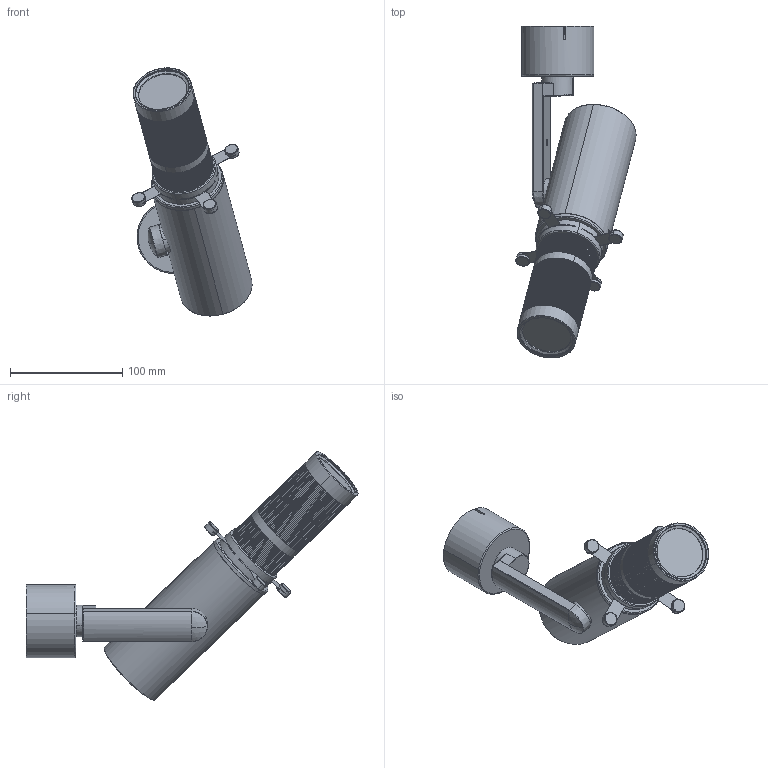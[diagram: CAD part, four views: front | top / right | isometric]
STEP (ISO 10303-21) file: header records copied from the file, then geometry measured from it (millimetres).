
FILE_DESCRIPTION (( 'STEP AP203' ), '1' );
FILE_NAME ('MODI-FP-3SPM.S.XX.STEP', '2025-05-07T07:01:01', ( '' ), ( '' ), 'SwSTEP 2.0', 'SolidWorks 2024', '' );
FILE_SCHEMA (( 'CONFIG_CONTROL_DESIGN' ));
Length unit declared in the file: millimetre
Products named in the file (4): MODI-FP-3SPM.S.XX; MODI-3-Framing_projector_lens.step; MODI-3-Single_point_base_surface.step; MODI-3-Luminaire_body.step
Assembly tree (3 placements, depth 2):
  MODI-FP-3SPM.S.XX
    MODI-3-Luminaire_body.step
    MODI-3-Single_point_base_surface.step
    MODI-3-Framing_projector_lens.step
Bounding box: 107.1 x 295.6 x 220.94 mm (x, y, z)
Volume: 563366.8 mm3; surface area: 214271 mm2
Topology: 7 solids, 33 shells, 2632 faces, 7441 edges, 4891 vertices
Faces by surface type: plane 1191, cylinder 1101, bspline 227, cone 63, torus 40, sphere 10
Entity records: 119871 total; most frequent: CARTESIAN_POINT 52525, ORIENTED_EDGE 14882, DIRECTION 13150, EDGE_CURVE 7441, VERTEX_POINT 4891, AXIS2_PLACEMENT_3D 4471, LINE 4208, VECTOR 4208
